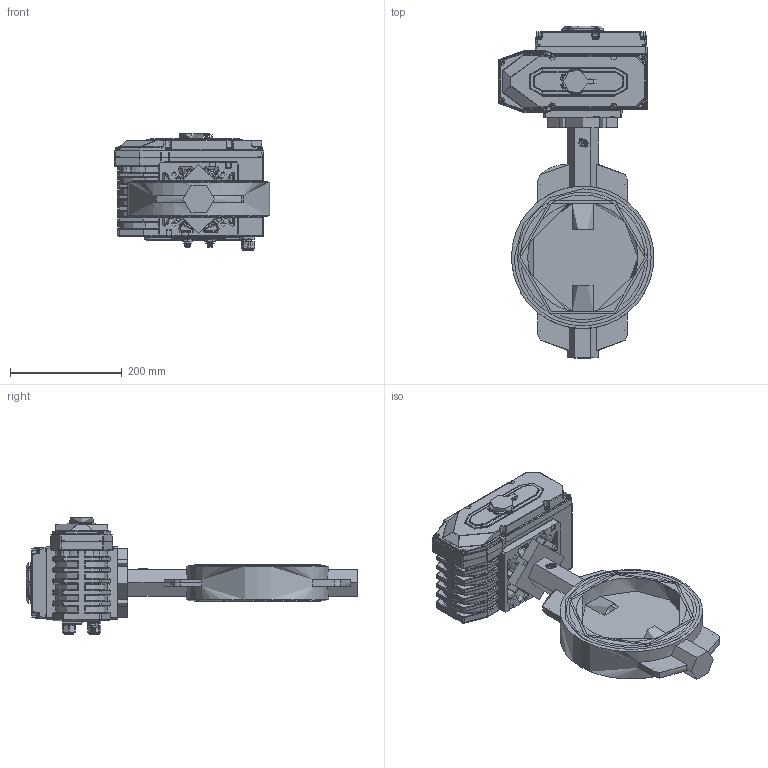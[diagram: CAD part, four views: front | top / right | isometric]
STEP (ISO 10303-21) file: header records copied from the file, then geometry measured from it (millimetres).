
FILE_DESCRIPTION(('STEP AP203'), '1');
FILE_NAME('3D_200_201-200-16-Ï.31', '', ('UNSPECIFIED'), ('UNSPECIFIED'), 'C3D Converter', 'C3D Toolkit', '');
FILE_SCHEMA(('CONFIG_CONTROL_DESIGN'));
Length unit declared in the file: millimetre
Bounding box: 279 x 593.99 x 209 mm (x, y, z)
Topology: 42 solids, 45 shells, 9598 faces, 26442 edges, 16871 vertices
Faces by surface type: plane 5058, cylinder 2267, cone 1335, bspline 454, torus 346, sphere 138
Full cylindrical faces by diameter (mm): 2 x2, 2.5 x1, 3 x12, 3.2 x1, 4.2 x18, 4.4 x14, 4.7 x14, 5 x369, 5.5 x4, 5.6 x1, 5.8 x14, 6.5 x1, 7 x2, 7.8 x14, 8.376 x12, 8.5 x12, 10 x81, 10.1 x2, 10.2 x4, 10.5 x4, 12 x6, 15 x2, 15.73 x4, 16.5 x2, 18 x2, 20 x4, 22 x4, 32 x1, 33.5 x3, 35.5 x4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
Entity records: 547678 total; most frequent: CARTESIAN_POINT 241418, ORIENTED_EDGE 48892, DIRECTION 44082, EDGE_CURVE 24446, VERTEX_POINT 16824, AXIS2_PLACEMENT_3D 15621, LINE 12840, VECTOR 12840
